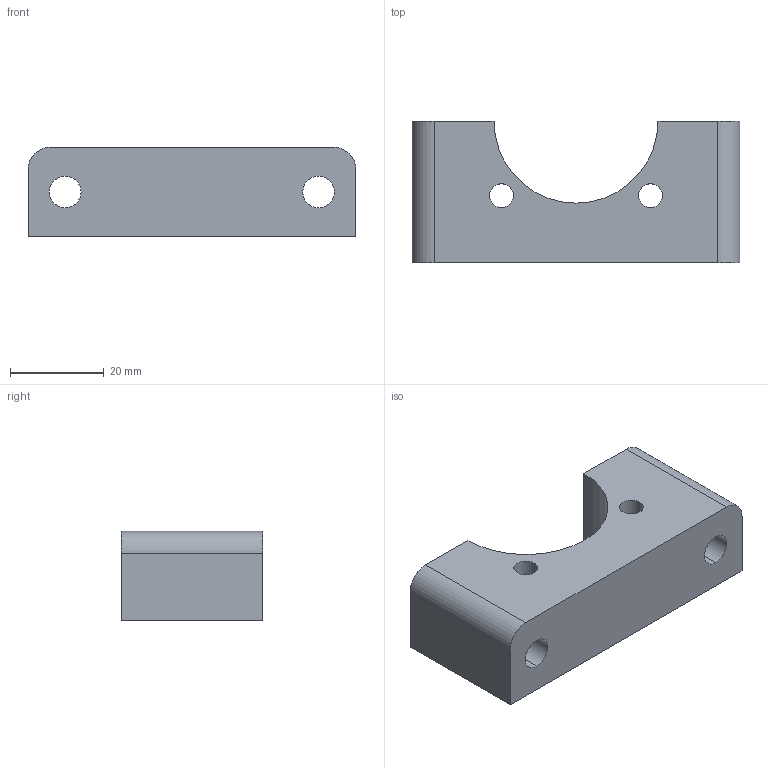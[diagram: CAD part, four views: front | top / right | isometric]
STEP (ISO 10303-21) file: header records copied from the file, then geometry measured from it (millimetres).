
FILE_DESCRIPTION (( 'STEP AP203' ), '1' );
FILE_NAME ('269-18-204.STEP', '2020-03-03T15:59:31', ( '' ), ( '' ), 'SwSTEP 2.0', 'SolidWorks 2017', '' );
FILE_SCHEMA (( 'CONFIG_CONTROL_DESIGN' ));
Length unit declared in the file: inch
Products named in the file (1): 269-18-204
Bounding box: 69.85 x 30.16 x 19.05 mm (x, y, z)
Volume: 25467.3 mm3; surface area: 9443.7 mm2
Topology: 1 solids, 1 shells, 24 faces, 60 edges, 40 vertices
Faces by surface type: cylinder 15, plane 9
Entity records: 829 total; most frequent: DIRECTION 140, CARTESIAN_POINT 125, ORIENTED_EDGE 120, EDGE_CURVE 60, AXIS2_PLACEMENT_3D 55, VERTEX_POINT 40, EDGE_LOOP 34, LINE 30
